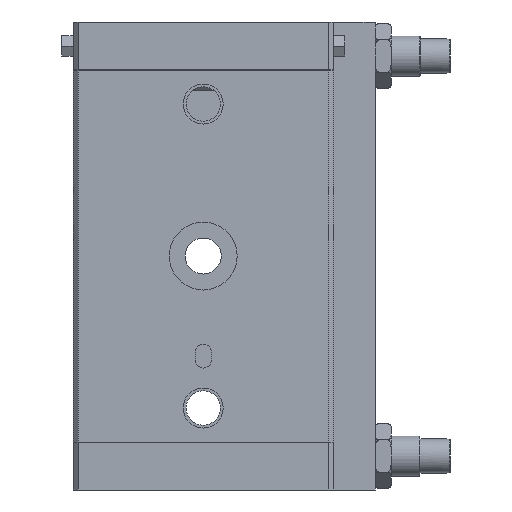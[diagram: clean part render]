
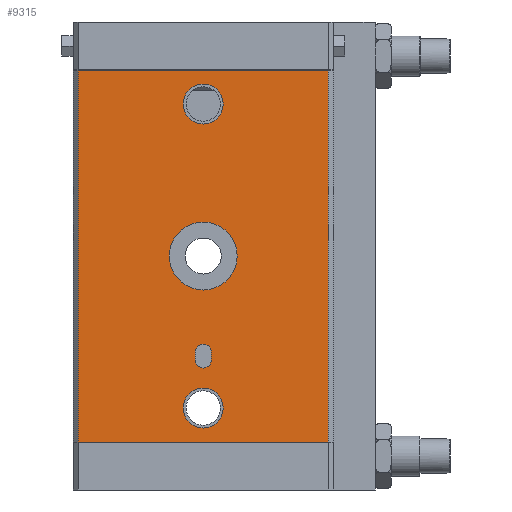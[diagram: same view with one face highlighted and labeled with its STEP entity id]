
A CAD part, front view. The second image highlights one B-rep face of the part: STEP entity #9315.
In plain terms, the highlighted planar face has unit normal (0, -1, 0).
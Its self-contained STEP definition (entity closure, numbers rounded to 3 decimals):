
#37 = FACE_BOUND ( 'NONE', #4981, .T. ) ;
#196 = LINE ( 'NONE', #15150, #13805 ) ;
#217 = EDGE_LOOP ( 'NONE', ( #10131, #307 ) ) ;
#307 = ORIENTED_EDGE ( 'NONE', *, *, #6373, .T. ) ;
#583 = DIRECTION ( 'NONE',  ( 1., 0., 0. ) ) ;
#609 = CARTESIAN_POINT ( 'NONE',  ( 31.3, 0., 46.5 ) ) ;
#635 = EDGE_CURVE ( 'NONE', #3397, #12448, #4089, .T. ) ;
#859 = CARTESIAN_POINT ( 'NONE',  ( 0., 0., -26. ) ) ;
#896 = AXIS2_PLACEMENT_3D ( 'NONE', #859, #6013, #14114 ) ;
#912 = CARTESIAN_POINT ( 'NONE',  ( 0., 0., 0. ) ) ;
#1014 = VERTEX_POINT ( 'NONE', #16521 ) ;
#1282 = CARTESIAN_POINT ( 'NONE',  ( 5., 0., -38. ) ) ;
#1370 = LINE ( 'NONE', #4147, #1920 ) ;
#1489 = VECTOR ( 'NONE', #1578, 1000. ) ;
#1540 = CIRCLE ( 'NONE', #9990, 8.5 ) ;
#1578 = DIRECTION ( 'NONE',  ( 0., 0., 1. ) ) ;
#1637 = CARTESIAN_POINT ( 'NONE',  ( 0., 0., 38. ) ) ;
#1705 = VERTEX_POINT ( 'NONE', #9869 ) ;
#1920 = VECTOR ( 'NONE', #12185, 1000. ) ;
#1941 = VERTEX_POINT ( 'NONE', #15756 ) ;
#2076 = AXIS2_PLACEMENT_3D ( 'NONE', #9213, #14556, #2498 ) ;
#2210 = EDGE_CURVE ( 'NONE', #9027, #4601, #6712, .T. ) ;
#2211 = ORIENTED_EDGE ( 'NONE', *, *, #8001, .F. ) ;
#2366 = CARTESIAN_POINT ( 'NONE',  ( 0., 0., 38. ) ) ;
#2447 = DIRECTION ( 'NONE',  ( 1., 0., 0. ) ) ;
#2498 = DIRECTION ( 'NONE',  ( -1., 0., 0. ) ) ;
#2665 = CARTESIAN_POINT ( 'NONE',  ( -31.3, 0., -46.5 ) ) ;
#2688 = ORIENTED_EDGE ( 'NONE', *, *, #15911, .F. ) ;
#2735 = CARTESIAN_POINT ( 'NONE',  ( 0., 0., 0. ) ) ;
#3035 = VERTEX_POINT ( 'NONE', #12920 ) ;
#3185 = EDGE_LOOP ( 'NONE', ( #10115, #2211, #10534, #2688 ) ) ;
#3397 = VERTEX_POINT ( 'NONE', #13147 ) ;
#3786 = VERTEX_POINT ( 'NONE', #16415 ) ;
#3833 = EDGE_CURVE ( 'NONE', #7203, #1014, #15499, .T. ) ;
#4089 = LINE ( 'NONE', #9239, #4660 ) ;
#4147 = CARTESIAN_POINT ( 'NONE',  ( -31.3, 0., 46.5 ) ) ;
#4415 = EDGE_LOOP ( 'NONE', ( #8467, #17387 ) ) ;
#4523 = CIRCLE ( 'NONE', #11011, 5. ) ;
#4601 = VERTEX_POINT ( 'NONE', #13481 ) ;
#4660 = VECTOR ( 'NONE', #12040, 1000. ) ;
#4715 = ORIENTED_EDGE ( 'NONE', *, *, #16984, .F. ) ;
#4755 = EDGE_CURVE ( 'NONE', #4601, #9027, #4523, .T. ) ;
#4933 = CARTESIAN_POINT ( 'NONE',  ( 2., 0., -26. ) ) ;
#4976 = EDGE_CURVE ( 'NONE', #3397, #1705, #5592, .T. ) ;
#4981 = EDGE_LOOP ( 'NONE', ( #13703, #4715 ) ) ;
#5461 = DIRECTION ( 'NONE',  ( 1., 0., 0. ) ) ;
#5592 = LINE ( 'NONE', #609, #1489 ) ;
#5800 = EDGE_CURVE ( 'NONE', #11339, #9021, #16681, .T. ) ;
#5850 = ORIENTED_EDGE ( 'NONE', *, *, #12459, .T. ) ;
#6013 = DIRECTION ( 'NONE',  ( 0., -1., 0. ) ) ;
#6197 = CARTESIAN_POINT ( 'NONE',  ( 0., 0., -24. ) ) ;
#6247 = DIRECTION ( 'NONE',  ( 0., 1., 0. ) ) ;
#6373 = EDGE_CURVE ( 'NONE', #3035, #14832, #1540, .T. ) ;
#6601 = DIRECTION ( 'NONE',  ( 0., -1., 0. ) ) ;
#6712 = CIRCLE ( 'NONE', #7303, 5. ) ;
#6943 = EDGE_CURVE ( 'NONE', #1705, #8729, #11017, .T. ) ;
#7203 = VERTEX_POINT ( 'NONE', #15602 ) ;
#7303 = AXIS2_PLACEMENT_3D ( 'NONE', #1637, #13778, #583 ) ;
#7488 = ORIENTED_EDGE ( 'NONE', *, *, #6943, .T. ) ;
#8001 = EDGE_CURVE ( 'NONE', #1014, #3786, #8747, .T. ) ;
#8005 = DIRECTION ( 'NONE',  ( 0., -1., 0. ) ) ;
#8082 = CARTESIAN_POINT ( 'NONE',  ( -8.5, 0., 0. ) ) ;
#8139 = CIRCLE ( 'NONE', #10391, 5. ) ;
#8210 = AXIS2_PLACEMENT_3D ( 'NONE', #2735, #14707, #11832 ) ;
#8393 = EDGE_LOOP ( 'NONE', ( #7488, #5850, #17187, #16083 ) ) ;
#8467 = ORIENTED_EDGE ( 'NONE', *, *, #4755, .F. ) ;
#8729 = VERTEX_POINT ( 'NONE', #9312 ) ;
#8747 = LINE ( 'NONE', #4933, #11021 ) ;
#9021 = VERTEX_POINT ( 'NONE', #16191 ) ;
#9027 = VERTEX_POINT ( 'NONE', #15717 ) ;
#9051 = EDGE_CURVE ( 'NONE', #3786, #1941, #13305, .T. ) ;
#9213 = CARTESIAN_POINT ( 'NONE',  ( 0., 0., -38. ) ) ;
#9239 = CARTESIAN_POINT ( 'NONE',  ( 32.5, 0., -46.5 ) ) ;
#9287 = CARTESIAN_POINT ( 'NONE',  ( 32.5, 0., 46.5 ) ) ;
#9312 = CARTESIAN_POINT ( 'NONE',  ( -31.3, 0., 46.5 ) ) ;
#9315 = ADVANCED_FACE ( 'NONE', ( #37, #10589, #9454, #17186, #13396 ), #12180, .T. ) ;
#9328 = CARTESIAN_POINT ( 'NONE',  ( 0., 0., -38. ) ) ;
#9413 = DIRECTION ( 'NONE',  ( -1., 0., 0. ) ) ;
#9454 = FACE_BOUND ( 'NONE', #3185, .T. ) ;
#9869 = CARTESIAN_POINT ( 'NONE',  ( 31.3, 0., 46.5 ) ) ;
#9990 = AXIS2_PLACEMENT_3D ( 'NONE', #912, #6247, #11633 ) ;
#10115 = ORIENTED_EDGE ( 'NONE', *, *, #9051, .F. ) ;
#10131 = ORIENTED_EDGE ( 'NONE', *, *, #15200, .T. ) ;
#10191 = CIRCLE ( 'NONE', #8210, 8.5 ) ;
#10215 = DIRECTION ( 'NONE',  ( 0., -1., 0. ) ) ;
#10391 = AXIS2_PLACEMENT_3D ( 'NONE', #9328, #8005, #9413 ) ;
#10534 = ORIENTED_EDGE ( 'NONE', *, *, #3833, .F. ) ;
#10589 = FACE_BOUND ( 'NONE', #4415, .T. ) ;
#11011 = AXIS2_PLACEMENT_3D ( 'NONE', #2366, #10215, #2447 ) ;
#11017 = LINE ( 'NONE', #16043, #15628 ) ;
#11021 = VECTOR ( 'NONE', #15341, 1000. ) ;
#11339 = VERTEX_POINT ( 'NONE', #1282 ) ;
#11585 = DIRECTION ( 'NONE',  ( 1., 0., 0. ) ) ;
#11633 = DIRECTION ( 'NONE',  ( -1., 0., 0. ) ) ;
#11832 = DIRECTION ( 'NONE',  ( -1., 0., 0. ) ) ;
#12040 = DIRECTION ( 'NONE',  ( -1., 0., 0. ) ) ;
#12180 = PLANE ( 'NONE',  #12472 ) ;
#12185 = DIRECTION ( 'NONE',  ( 0., 0., -1. ) ) ;
#12448 = VERTEX_POINT ( 'NONE', #2665 ) ;
#12459 = EDGE_CURVE ( 'NONE', #8729, #12448, #1370, .T. ) ;
#12472 = AXIS2_PLACEMENT_3D ( 'NONE', #9287, #13490, #5461 ) ;
#12920 = CARTESIAN_POINT ( 'NONE',  ( 8.5, 0., 0. ) ) ;
#13147 = CARTESIAN_POINT ( 'NONE',  ( 31.3, 0., -46.5 ) ) ;
#13305 = CIRCLE ( 'NONE', #14428, 2. ) ;
#13396 = FACE_OUTER_BOUND ( 'NONE', #8393, .T. ) ;
#13481 = CARTESIAN_POINT ( 'NONE',  ( 5., 0., 38. ) ) ;
#13490 = DIRECTION ( 'NONE',  ( 0., -1., 0. ) ) ;
#13703 = ORIENTED_EDGE ( 'NONE', *, *, #5800, .F. ) ;
#13778 = DIRECTION ( 'NONE',  ( 0., -1., 0. ) ) ;
#13805 = VECTOR ( 'NONE', #15067, 1000. ) ;
#14114 = DIRECTION ( 'NONE',  ( 1., 0., 0. ) ) ;
#14428 = AXIS2_PLACEMENT_3D ( 'NONE', #6197, #6601, #11585 ) ;
#14556 = DIRECTION ( 'NONE',  ( 0., -1., 0. ) ) ;
#14707 = DIRECTION ( 'NONE',  ( 0., 1., 0. ) ) ;
#14832 = VERTEX_POINT ( 'NONE', #8082 ) ;
#15067 = DIRECTION ( 'NONE',  ( 0., 0., -1. ) ) ;
#15150 = CARTESIAN_POINT ( 'NONE',  ( -2., 0., -24. ) ) ;
#15200 = EDGE_CURVE ( 'NONE', #14832, #3035, #10191, .T. ) ;
#15341 = DIRECTION ( 'NONE',  ( 0., 0., 1. ) ) ;
#15499 = CIRCLE ( 'NONE', #896, 2. ) ;
#15602 = CARTESIAN_POINT ( 'NONE',  ( -2., 0., -26. ) ) ;
#15628 = VECTOR ( 'NONE', #16390, 1000. ) ;
#15717 = CARTESIAN_POINT ( 'NONE',  ( -5., 0., 38. ) ) ;
#15756 = CARTESIAN_POINT ( 'NONE',  ( -2., 0., -24. ) ) ;
#15911 = EDGE_CURVE ( 'NONE', #1941, #7203, #196, .T. ) ;
#16043 = CARTESIAN_POINT ( 'NONE',  ( 32.5, 0., 46.5 ) ) ;
#16083 = ORIENTED_EDGE ( 'NONE', *, *, #4976, .T. ) ;
#16191 = CARTESIAN_POINT ( 'NONE',  ( -5., 0., -38. ) ) ;
#16390 = DIRECTION ( 'NONE',  ( -1., 0., 0. ) ) ;
#16415 = CARTESIAN_POINT ( 'NONE',  ( 2., 0., -24. ) ) ;
#16521 = CARTESIAN_POINT ( 'NONE',  ( 2., 0., -26. ) ) ;
#16681 = CIRCLE ( 'NONE', #2076, 5. ) ;
#16984 = EDGE_CURVE ( 'NONE', #9021, #11339, #8139, .T. ) ;
#17186 = FACE_BOUND ( 'NONE', #217, .T. ) ;
#17187 = ORIENTED_EDGE ( 'NONE', *, *, #635, .F. ) ;
#17387 = ORIENTED_EDGE ( 'NONE', *, *, #2210, .F. ) ;
